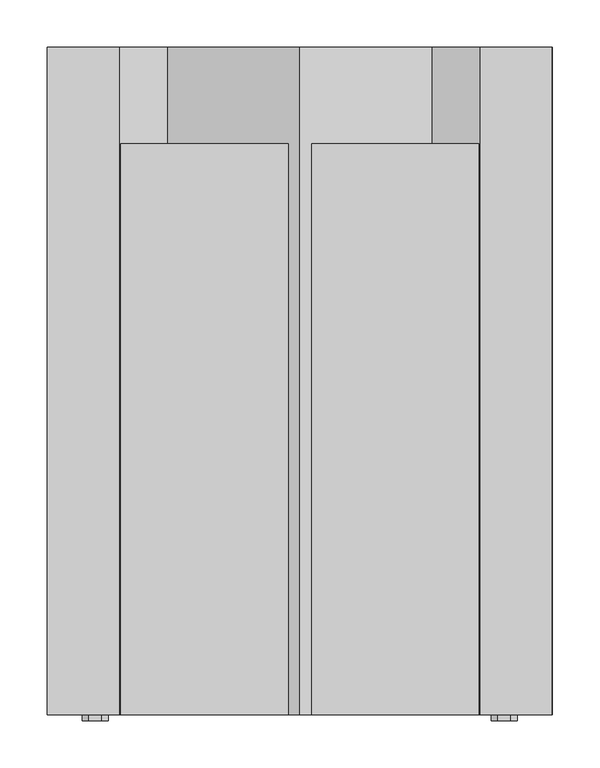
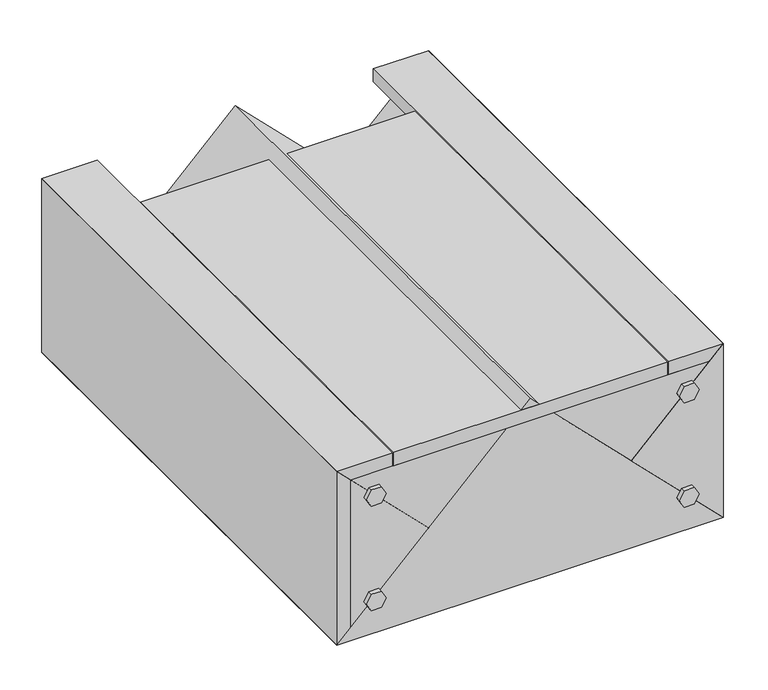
"""IFC4 building model written with IfcOpenShell, lengths in millimetres: proxy geometry, FOUNDATION^TABLE 6_10X21 PAINTED END BASE-ASSEMBLY."""

from ifc_helpers import new_model, si_unit, frame, origin, place, context, project, spatial, polyline, outline, extrude, source, transform, mapped, element, save


def generic_models_18996e01(model_context):
    return source(origin(), model_context, "Body", "SweptSolid", [
        extrude(outline(polyline([(-215.10625, 475.7259234), (-215.10625, 489.4740766), (-203.2, 496.3481533), (-191.29375, 489.4740766), (-191.29375, 475.7259234), (-203.2, 468.8518467), (-215.10625, 475.7259234)])), frame((0.0, -6.35, 0.0), z_axis=(0.0, 1.0, 0.0), x_axis=(0.0, 0.0, 1.0)), (0.0, 0.0, 1.0), 6.35),
        extrude(outline(polyline([(455.6125, 0.0), (77.7875, 0.0), (77.7875, 603.25), (455.6125, 603.25), (455.6125, 0.0)])), frame((0.0, 0.0, -19.05), z_axis=(0.0, 0.0, 1.0), x_axis=(1.0, 0.0, 0.0)), (0.0, 0.0, 1.0), 19.05),
        extrude(outline(polyline([(-127.0, 406.4), (-254.0, 533.4), (0.0, 533.4), (-127.0, 406.4)])), frame((0.0, 0.0, 0.0), z_axis=(0.0, 1.0, 0.0), x_axis=(0.0, 0.0, 1.0)), (0.0, 0.0, 1.0), 704.85),
        extrude(outline(polyline([(-62.70625, 475.7259234), (-62.70625, 489.4740766), (-50.8, 496.3481533), (-38.89375, 489.4740766), (-38.89375, 475.7259234), (-50.8, 468.8518467), (-62.70625, 475.7259234)])), frame((0.0, -6.35, 0.0), z_axis=(0.0, 1.0, 0.0), x_axis=(0.0, 0.0, 1.0)), (0.0, 0.0, 1.0), 6.35),
        extrude(outline(polyline([(-254.0, 0.0), (-254.0, 533.4), (12.7, 266.7), (-254.0, 0.0)])), frame((0.0, 0.0, 0.0), z_axis=(0.0, 1.0, 0.0), x_axis=(0.0, 0.0, 1.0)), (0.0, 0.0, 1.0), 704.85),
        extrude(outline(polyline([(-215.10625, 43.9259234), (-215.10625, 57.6740766), (-203.2, 64.5481533), (-191.29375, 57.6740766), (-191.29375, 43.9259234), (-203.2, 37.0518467), (-215.10625, 43.9259234)])), frame((0.0, -6.35, 0.0), z_axis=(0.0, 1.0, 0.0), x_axis=(0.0, 0.0, 1.0)), (0.0, 0.0, 1.0), 6.35),
        extrude(outline(polyline([(0.0, 76.2), (0.0, 0.0), (-19.05, 19.05), (-19.05, 76.2), (0.0, 76.2)])), frame((0.0, 0.0, 0.0), z_axis=(0.0, 1.0, 0.0), x_axis=(0.0, 0.0, 1.0)), (0.0, 0.0, 1.0), 704.85),
        extrude(outline(polyline([(-19.05, 457.2), (-19.05, 514.35), (0.0, 533.4), (0.0, 457.2), (-19.05, 457.2)])), frame((0.0, 0.0, 0.0), z_axis=(0.0, 1.0, 0.0), x_axis=(0.0, 0.0, 1.0)), (0.0, 0.0, 1.0), 704.85),
        extrude(outline(polyline([(514.35, 0.0), (19.05, 0.0), (19.05, 25.4), (514.35, 25.4), (514.35, 0.0)])), frame((0.0, 0.0, -234.95), z_axis=(0.0, 0.0, 1.0), x_axis=(1.0, 0.0, 0.0)), (0.0, 0.0, 1.0), 215.9),
        extrude(outline(polyline([(-62.70625, 43.9259234), (-62.70625, 57.6740766), (-50.8, 64.5481533), (-38.89375, 57.6740766), (-38.89375, 43.9259234), (-50.8, 37.0518467), (-62.70625, 43.9259234)])), frame((0.0, -6.35, 0.0), z_axis=(0.0, 1.0, 0.0), x_axis=(0.0, 0.0, 1.0)), (0.0, 0.0, 1.0), 6.35),
        extrude(outline(polyline([(-127.0, 127.0), (0.0, 0.0), (-254.0, 0.0), (-127.0, 127.0)])), frame((0.0, 0.0, 0.0), z_axis=(0.0, 1.0, 0.0), x_axis=(0.0, 0.0, 1.0)), (0.0, 0.0, 1.0), 704.85),
    ])


if __name__ == "__main__":
    model = new_model("IFC4")
    model_context = context("Model", 3, world=origin())
    ifc_project = project(units=[si_unit("LENGTHUNIT", "METRE", prefix="MILLI")], contexts=[model_context])
    site = spatial("IfcSite", under=ifc_project)
    building = spatial("IfcBuilding", under=site)
    placement = place(None, origin())
    generic_models_shape = generic_models_18996e01(model_context)
    element("IfcBuildingElementProxy", 1, Name="FOUNDATION^TABLE 6_10X21 PAINTED END BASE-ASSEMBLY", ObjectType="FOUNDATION^TABLE 6_10X21 PAINTED END BASE-ASSEMBLY", at=placement, inside=building, context=model_context, shape_type="MappedRepresentation", body=[
        mapped(generic_models_shape, transform((0.0, 0.0, 0.0), x_axis=(1.0, 0.0, 0.0), y_axis=(0.0, 1.0, 0.0), z_axis=(0.0, 0.0, 1.0))),
    ])
    save(model, "model.ifc")
